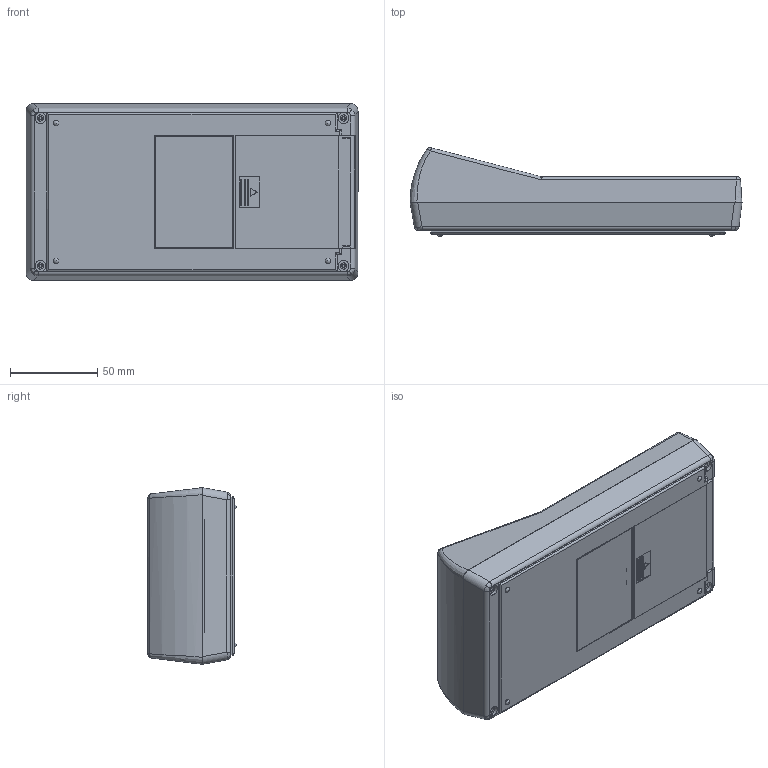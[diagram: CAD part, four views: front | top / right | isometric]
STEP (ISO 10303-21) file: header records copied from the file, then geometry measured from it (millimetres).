
FILE_DESCRIPTION (( 'STEP AP214' ), '1' );
FILE_NAME ('90-52-4A-R.STEP', '2019-12-01T15:54:06', ( 'Rudy' ), ( '' ), 'SwSTEP 2.0', 'SolidWorks 2014', '' );
FILE_SCHEMA (( 'AUTOMOTIVE_DESIGN' ));
Length unit declared in the file: millimetre
Products named in the file (5): 4AAdoor; 100 bessel; 100 Top Angled LCD; 100-02 BOT-4AA; 90-52-4A-R
Assembly tree (4 placements, depth 2):
  90-52-4A-R
    100-02 BOT-4AA
    100 Top Angled LCD
    100 bessel
    4AAdoor
Bounding box: 190.6 x 50.79 x 101.4 mm (x, y, z)
Volume: 126745 mm3; surface area: 136676 mm2
Topology: 4 solids, 4 shells, 797 faces, 2155 edges, 1394 vertices
Faces by surface type: plane 561, cylinder 172, cone 24, bspline 24, torus 12, sphere 4
Entity records: 26033 total; most frequent: CARTESIAN_POINT 6022, ORIENTED_EDGE 4274, DIRECTION 3884, EDGE_CURVE 2137, LINE 1654, VECTOR 1654, VERTEX_POINT 1386, AXIS2_PLACEMENT_3D 1115
